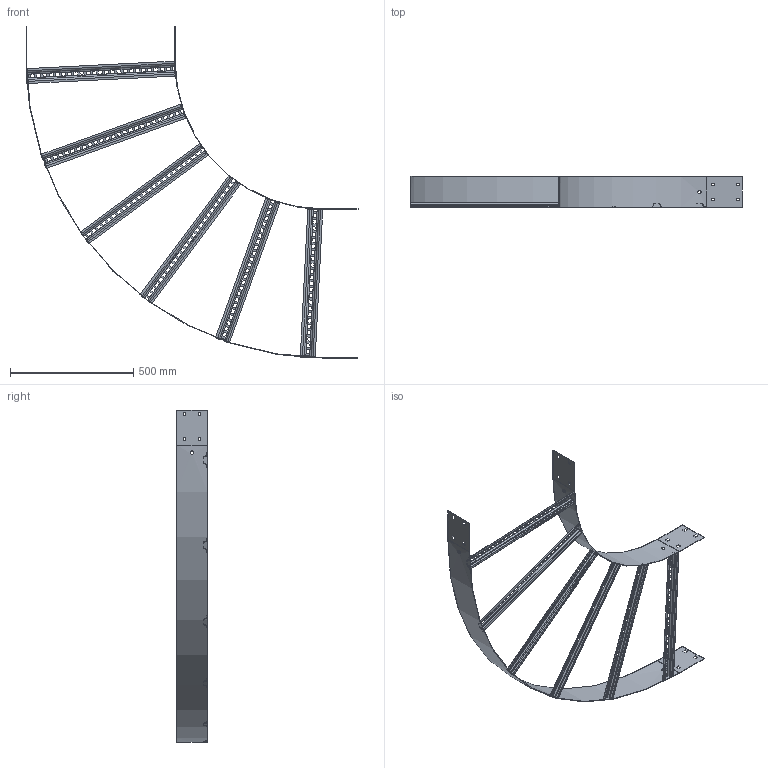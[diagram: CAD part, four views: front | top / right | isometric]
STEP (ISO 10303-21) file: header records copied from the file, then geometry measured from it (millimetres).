
FILE_DESCRIPTION (( 'STEP AP203' ), '1' );
FILE_NAME ('N3 B 6004.STEP', '2021-06-10T21:09:08', ( '' ), ( '' ), 'SwSTEP 2.0', 'SolidWorks 2020', '' );
FILE_SCHEMA (( 'CONFIG_CONTROL_DESIGN' ));
Length unit declared in the file: millimetre
Products named in the file (4): N3 B 6004; N3 RADIUS PLATE_N1-600 IR; N3 RADIUS PLATE_N1-1200; Ladder Rung_Ladder Rung -  600mm
Assembly tree (8 placements, depth 2):
  N3 B 6004
    N3 RADIUS PLATE_N1-600 IR
    N3 RADIUS PLATE_N1-1200
    Ladder Rung_Ladder Rung -  600mm  x6
Bounding box: 1344.5 x 124 x 1344.5 mm (x, y, z)
Volume: 1220832.5 mm3; surface area: 1359396 mm2
Topology: 8 solids, 8 shells, 928 faces, 2528 edges, 1616 vertices
Faces by surface type: plane 868, cylinder 60
Entity records: 8714 total; most frequent: CARTESIAN_POINT 2001, ORIENTED_EDGE 1296, DIRECTION 1154, EDGE_CURVE 648, LINE 608, VECTOR 608, VERTEX_POINT 416, EDGE_LOOP 324
